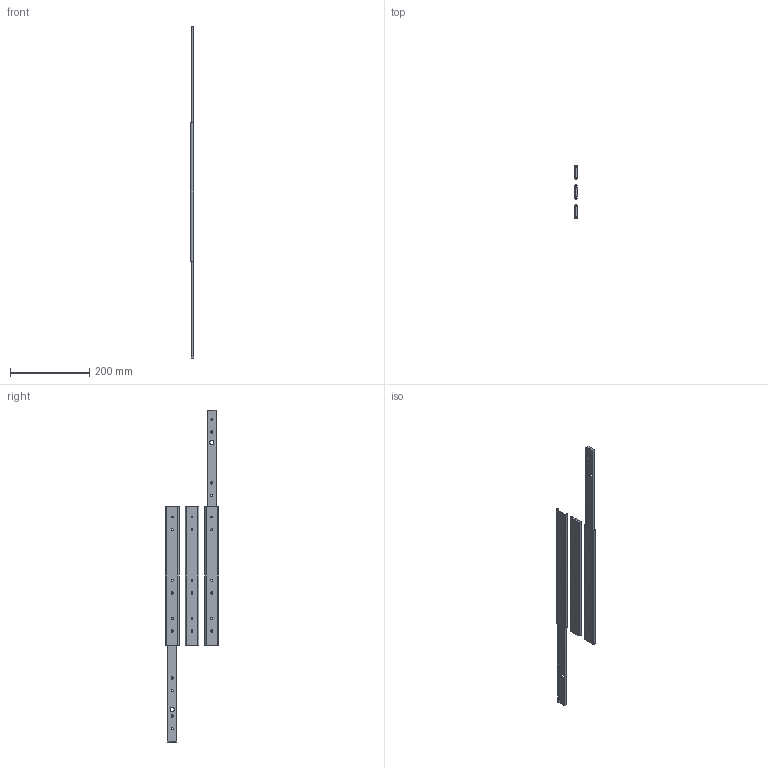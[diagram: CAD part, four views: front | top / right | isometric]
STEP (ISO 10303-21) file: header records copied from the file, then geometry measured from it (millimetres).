
FILE_DESCRIPTION((''),'2;1');
FILE_NAME('D:\01 WORK\DIST\02172A-Drawings for website\2026\DZ2026\STEP\2026-0035 3d open & closed for website.stp','2012-10-03T13:54:35',('jthatch'),(''),'Autodesk Inventor 2012','Autodesk Inventor 2012','');
FILE_SCHEMA(('AUTOMOTIVE_DESIGN { 1 0 10303 214 1 1 1 1 }'));
Length unit declared in the file: millimetre
Products named in the file (3): 2026-0035 3d open & closed for website; 2026-0030 3d Outer member for website; 2026-0030  3d Inner member for website
Assembly tree (6 placements, depth 2):
  2026-0035 3d open & closed for website
    2026-0030 3d Outer member for website  x3
    2026-0030  3d Inner member for website  x3
Bounding box: 9.5 x 135.28 x 837.2 mm (x, y, z)
Volume: 117531.8 mm3; surface area: 176117.1 mm2
Topology: 6 solids, 6 shells, 216 faces, 615 edges, 411 vertices
Faces by surface type: plane 132, cylinder 84
Full cylindrical faces by diameter (mm): 4.3 x6, 10 x6
Entity records: 2494 total; most frequent: DIRECTION 418, CARTESIAN_POINT 417, ORIENTED_EDGE 400, EDGE_CURVE 200, VECTOR 144, LINE 144, AXIS2_PLACEMENT_3D 137, VERTEX_POINT 136
